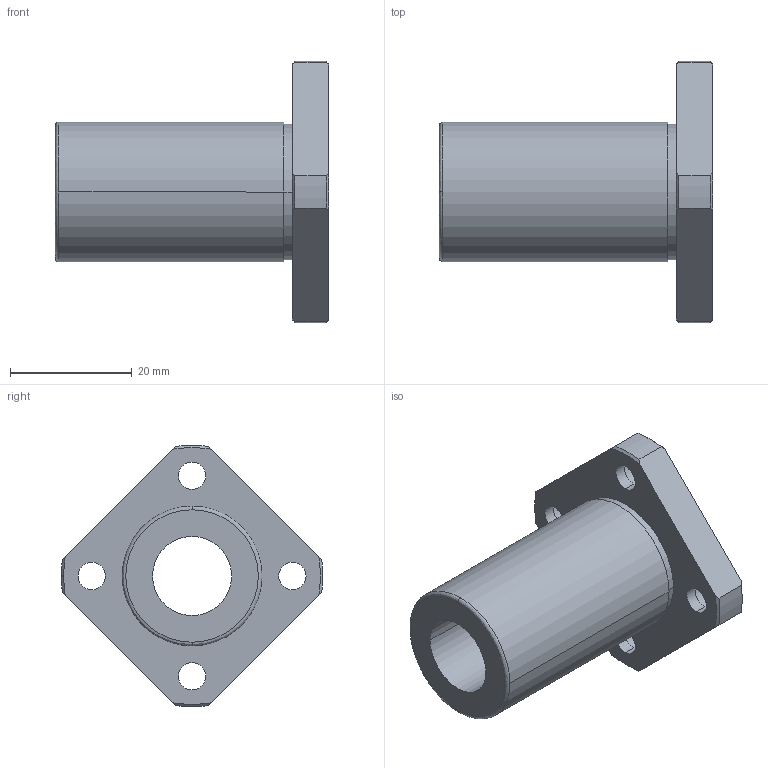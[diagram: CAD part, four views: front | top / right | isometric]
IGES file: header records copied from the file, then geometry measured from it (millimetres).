
Start section: 3D InterOp IGES (Version 21 0 1), Spatial Corp. Copyright (c) 1999-2007.
Global section: file name: NFES-13VM.igs; native system: Spatial Corp.; preprocessor: 3D InterOp GENERIC/IGES 3.0; author: Noname; organization: Noname; date: 20220308.101658; units: millimetre
Bounding box: 45 x 42.98 x 42.96 mm (x, y, z)
Surface area: 7794.8 mm2 (no closed solid volume)
Topology: 0 solids, 0 shells, 51 faces, 254 edges, 254 vertices
Faces by surface type: revolution 39, extrusion 12
